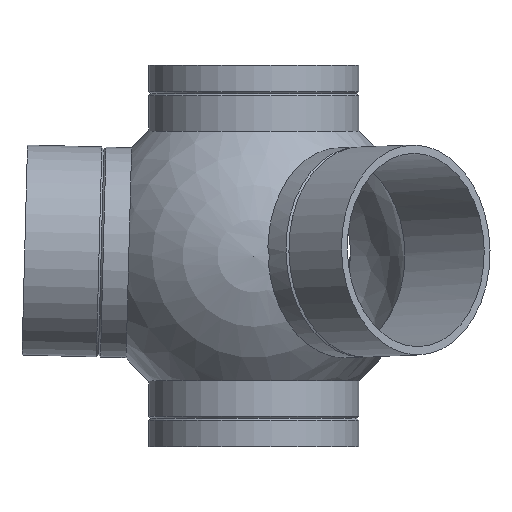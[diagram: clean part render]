
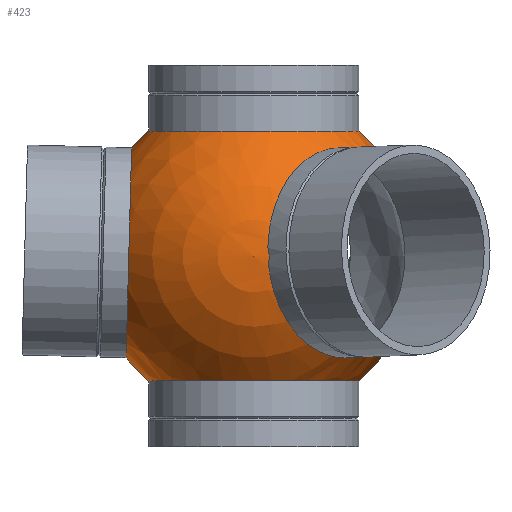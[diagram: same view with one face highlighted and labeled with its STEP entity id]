
A CAD part, left-side view. The second image highlights one B-rep face of the part: STEP entity #423.
In plain terms, the highlighted spherical face has radius 85.5 mm.
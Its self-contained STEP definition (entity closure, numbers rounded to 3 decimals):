
#14=SPHERICAL_SURFACE('',#493,85.5);
#72=FACE_BOUND('',#169,.T.);
#73=FACE_BOUND('',#170,.T.);
#74=FACE_BOUND('',#171,.T.);
#75=FACE_BOUND('',#172,.T.);
#104=FACE_OUTER_BOUND('',#168,.T.);
#168=EDGE_LOOP('',(#343));
#169=EDGE_LOOP('',(#344));
#170=EDGE_LOOP('',(#345));
#171=EDGE_LOOP('',(#346));
#172=EDGE_LOOP('',(#347));
#185=CIRCLE('',#445,55.);
#186=CIRCLE('',#447,55.);
#192=CIRCLE('',#460,55.);
#204=CIRCLE('',#482,55.);
#209=CIRCLE('',#492,55.);
#220=VERTEX_POINT('',#659);
#221=VERTEX_POINT('',#662);
#227=VERTEX_POINT('',#681);
#239=VERTEX_POINT('',#715);
#244=VERTEX_POINT('',#730);
#255=EDGE_CURVE('',#220,#220,#185,.T.);
#256=EDGE_CURVE('',#221,#221,#186,.T.);
#262=EDGE_CURVE('',#227,#227,#192,.T.);
#274=EDGE_CURVE('',#239,#239,#204,.T.);
#279=EDGE_CURVE('',#244,#244,#209,.T.);
#343=ORIENTED_EDGE('',*,*,#255,.T.);
#344=ORIENTED_EDGE('',*,*,#256,.T.);
#345=ORIENTED_EDGE('',*,*,#262,.T.);
#346=ORIENTED_EDGE('',*,*,#274,.T.);
#347=ORIENTED_EDGE('',*,*,#279,.T.);
#423=ADVANCED_FACE('',(#104,#72,#73,#74,#75),#14,.T.);
#445=AXIS2_PLACEMENT_3D('',#660,#531,#532);
#447=AXIS2_PLACEMENT_3D('',#663,#535,#536);
#460=AXIS2_PLACEMENT_3D('',#682,#561,#562);
#482=AXIS2_PLACEMENT_3D('',#716,#605,#606);
#492=AXIS2_PLACEMENT_3D('',#731,#625,#626);
#493=AXIS2_PLACEMENT_3D('',#732,#627,#628);
#531=DIRECTION('center_axis',(-1.,0.,
-0.026));
#532=DIRECTION('ref_axis',(0.,-1.,0.));
#535=DIRECTION('center_axis',(0.707,0.707,-0.026));
#536=DIRECTION('ref_axis',(-0.707,0.707,0.));
#561=DIRECTION('center_axis',(0.,-1.,
-0.026));
#562=DIRECTION('ref_axis',(1.,0.,0.));
#605=DIRECTION('center_axis',(0.,0.,
1.));
#606=DIRECTION('ref_axis',(0.,-1.,0.));
#625=DIRECTION('center_axis',(0.,0.,
-1.));
#626=DIRECTION('ref_axis',(0.,-1.,0.));
#627=DIRECTION('center_axis',(-1.,0.,0.));
#628=DIRECTION('ref_axis',(0.,-1.,0.));
#659=CARTESIAN_POINT('',(65.439,55.,1.714));
#660=CARTESIAN_POINT('Origin',(65.439,0.,1.714));
#662=CARTESIAN_POINT('',(-7.382,-85.164,1.714));
#663=CARTESIAN_POINT('Origin',(-46.273,-46.273,1.714));
#681=CARTESIAN_POINT('',(-55.,65.439,1.714));
#682=CARTESIAN_POINT('Origin',(0.,65.439,1.714));
#715=CARTESIAN_POINT('',(0.,55.,-65.462));
#716=CARTESIAN_POINT('Origin',(0.,0.,
-65.462));
#730=CARTESIAN_POINT('',(0.,55.,65.462));
#731=CARTESIAN_POINT('Origin',(0.,0.,
65.462));
#732=CARTESIAN_POINT('Origin',(0.,0.,0.));
